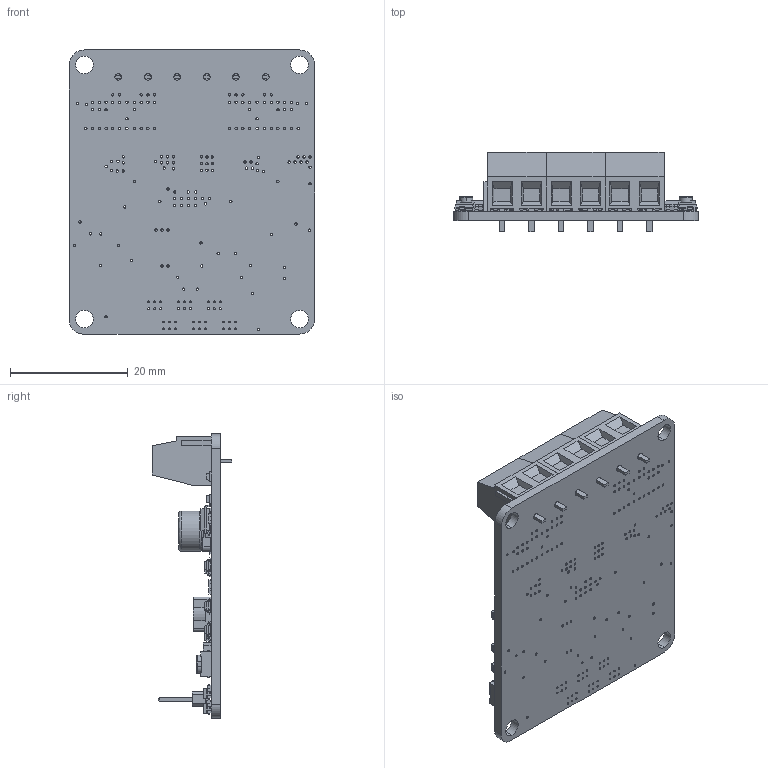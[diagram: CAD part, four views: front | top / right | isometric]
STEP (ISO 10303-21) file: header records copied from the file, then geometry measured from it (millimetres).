
FILE_DESCRIPTION (( 'STEP AP214' ), '1' );
FILE_NAME ('MDD3A.STEP', '2019-11-07T04:24:42', ( '' ), ( '' ), 'SwSTEP 2.0', 'SolidWorks 2015', '' );
FILE_SCHEMA (( 'AUTOMOTIVE_DESIGN' ));
Length unit declared in the file: millimetre
Products named in the file (19): SOT-23; ECAP-CHEMICON-F; D-SMA; C2012; TERMINAL-KF127-2P_Green; R1608; SOIC-08N; SOT-23-6; C1608; CD54; S-HDR-M1X06; TERMINAL-KF127-2P_Black; SW-PB-KAN3246; MDD3A; C3216; LED-1608; D-SOD-123; Board; PCB Component
Assembly tree (86 placements, depth 3):
  MDD3A
    PCB Component
      Board
      ECAP-CHEMICON-F
      D-SOD-123  x4
      LED-1608  x5
      TERMINAL-KF127-2P_Green
      TERMINAL-KF127-2P_Black  x2
      SOIC-08N  x4
      SOT-23  x18
      R1608  x37
      C1608
      SW-PB-KAN3246  x4
      S-HDR-M1X06
      SOT-23-6
      CD54  x2
      C3216
      D-SMA
      C2012
Bounding box: 41.66 x 13.5 x 48.26 mm (x, y, z)
Volume: 5903.2 mm3; surface area: 8908.8 mm2
Topology: 94 solids, 119 shells, 4099 faces, 10687 edges, 6860 vertices
Faces by surface type: plane 3027, cylinder 1030, bspline 32, cone 10
Entity records: 63947 total; most frequent: CARTESIAN_POINT 9368, DIRECTION 8301, ORIENTED_EDGE 7952, EDGE_CURVE 3978, AXIS2_PLACEMENT_3D 2778, LINE 2745, VECTOR 2745, VERTEX_POINT 2565
